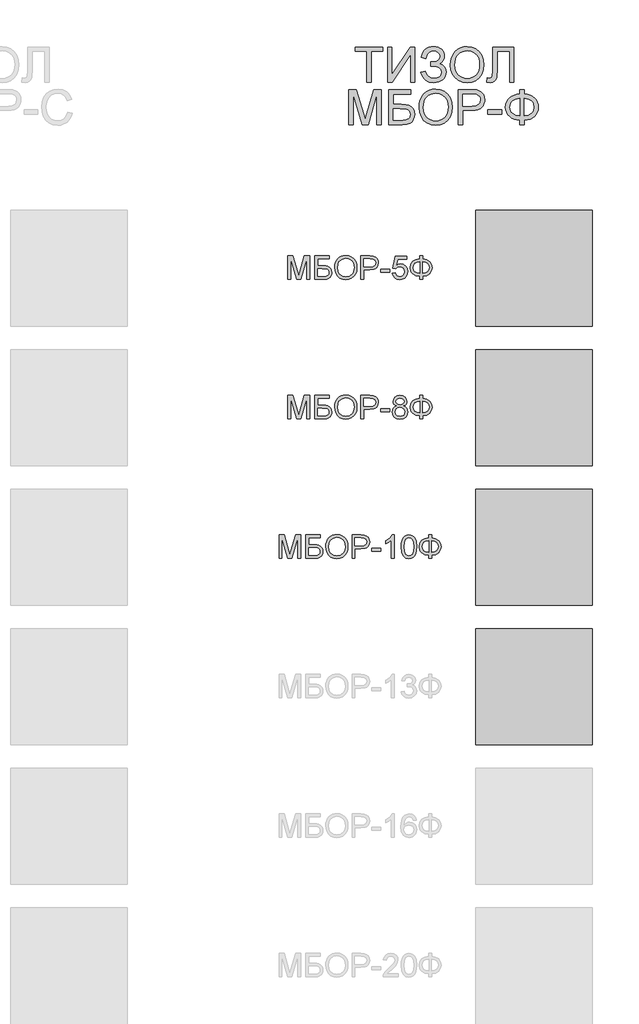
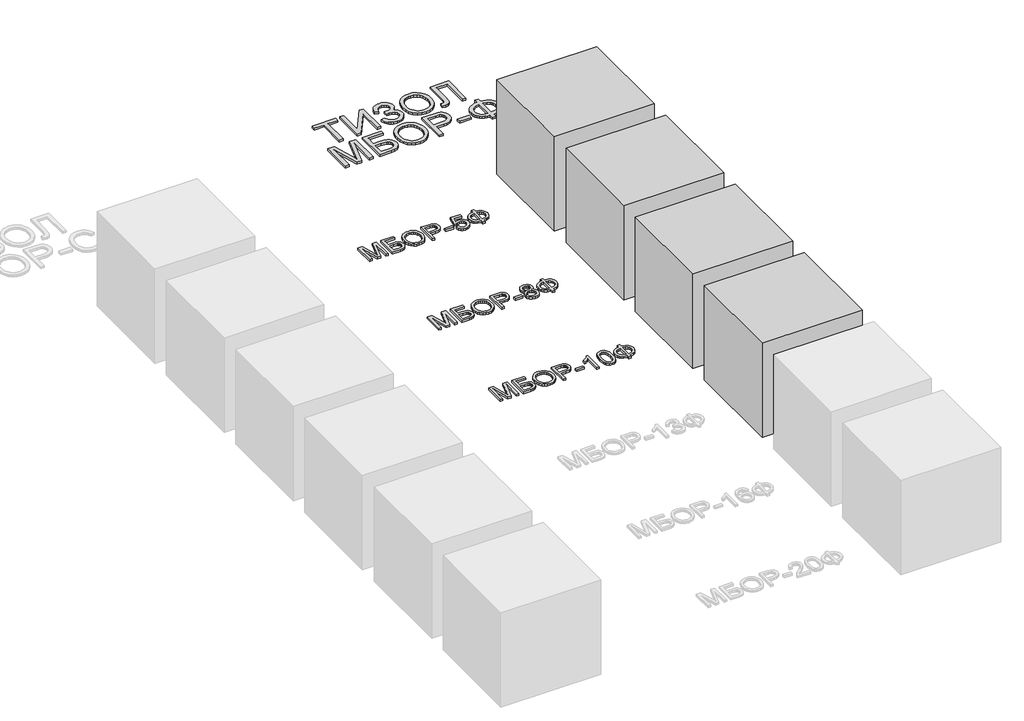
# One storey, part 26 of 35: 8 proxies.
"""IFC4 building model written with IfcOpenShell, lengths in millimetres."""

import ifcopenshell
import ifcopenshell.guid

model = None  # the IFC model being written
_history = None  # IfcOwnerHistory: only IFC2X3 demands one
_inside = {}  # id of a spatial element -> (the spatial element, [elements in it])
_under = {}  # id of a project, library or spatial element -> (it, [spatial elements below it])
_declared = {}  # id of a project -> (the project, [libraries it declares])
_typed = {}  # id of a type object -> (the type object, [elements of that type])
_made_of = {}  # id of a material, layer set ... -> (it, [elements and type objects made of it])


def new_model(schema):
    """Start an empty IFC model of exactly this schema.

    Asked for "IFC4X3", IfcOpenShell would pick the latest addendum, in which some entities
    have other attributes; the version numbers below select the first issue.
    IFC2X3 requires an IfcOwnerHistory on every rooted entity: one is made here for all.
    """
    global model, _history
    if schema == "IFC4X3":
        model = ifcopenshell.file(schema_version=(4, 3, 0, 0))
    else:
        model = ifcopenshell.file(schema=schema)
    _inside.clear()
    _under.clear()
    _declared.clear()
    _typed.clear()
    _made_of.clear()
    _history = None
    if model.schema == "IFC2X3":
        org = make("IfcOrganization", Name="unknown")
        user = make(
            "IfcPersonAndOrganization",
            ThePerson=make("IfcPerson", FamilyName="unknown"),
            TheOrganization=org,
        )
        app = make(
            "IfcApplication",
            ApplicationDeveloper=org,
            Version="unknown",
            ApplicationFullName="unknown",
            ApplicationIdentifier="unknown",
        )
        _history = make(
            "IfcOwnerHistory",
            OwningUser=user,
            OwningApplication=app,
            ChangeAction="ADDED",
            CreationDate=0,
        )
    return model


def make(cls, **values):
    """One entity of the class cls with the attributes given. An attribute that is None is left unset."""
    return model.create_entity(
        cls, **{name: value for name, value in values.items() if value is not None}
    )


def rooted(cls, **values):
    """An entity with a GlobalId (a new one), such as an element, a storey or a relation."""
    return make(cls, GlobalId=ifcopenshell.guid.new(), OwnerHistory=_history, **values)


def si_unit(unit_type, name, prefix=None):
    """IfcSIUnit, for example si_unit("LENGTHUNIT", "METRE", prefix="MILLI")."""
    return make("IfcSIUnit", UnitType=unit_type, Prefix=prefix, Name=name)


def assignment(units):
    """IfcUnitAssignment: the units of a project."""
    return None if units is None else make("IfcUnitAssignment", Units=units)


def point(xyz):
    """IfcCartesianPoint."""
    return None if xyz is None else make("IfcCartesianPoint", Coordinates=xyz)


def direction(xyz):
    """IfcDirection."""
    return None if xyz is None else make("IfcDirection", DirectionRatios=xyz)


def frame(location, z_axis=None, x_axis=None):
    """IfcAxis2Placement3D, a coordinate frame: its origin and axes. An axis left out is left unset."""
    return make(
        "IfcAxis2Placement3D",
        Location=point(location),
        Axis=direction(z_axis),
        RefDirection=direction(x_axis),
    )


def origin():
    """The frame at (0, 0, 0) with its axes left unset."""
    return frame((0.0, 0.0, 0.0))


def origin_with_axes():
    """The frame at (0, 0, 0) with the z axis (0, 0, 1) and the x axis (1, 0, 0) written out."""
    return frame((0.0, 0.0, 0.0), z_axis=(0.0, 0.0, 1.0), x_axis=(1.0, 0.0, 0.0))


def place(relative_to, where):
    """IfcLocalPlacement: puts the frame where relative to a parent placement (None: the world)."""
    return make(
        "IfcLocalPlacement", PlacementRelTo=relative_to, RelativePlacement=where
    )


def context(
    kind, dimensions, precision=None, world=None, true_north=None, identifier=None
):
    """IfcGeometricRepresentationContext, for example the 3D "Model" context."""
    return make(
        "IfcGeometricRepresentationContext",
        ContextIdentifier=identifier,
        ContextType=kind,
        CoordinateSpaceDimension=dimensions,
        Precision=precision,
        WorldCoordinateSystem=world,
        TrueNorth=true_north,
    )


def project(units=None, contexts=None):
    """IfcProject with its units and contexts."""
    return rooted(
        "IfcProject",
        Name="project",
        RepresentationContexts=contexts,
        UnitsInContext=assignment(units),
    )


def spatial(cls, under=None, at=None, **own):
    """A site, building, storey or space (cls), placed at a placement, below another one or the project."""
    s = rooted(cls, ObjectPlacement=at, **own)
    if under is not None:
        _under.setdefault(under.id(), (under, []))[1].append(s)
    return s


def polyline(points):
    """IfcPolyline through the points."""
    return make("IfcPolyline", Points=[point(p) for p in points])


def outline(outer, holes=None, kind="AREA"):
    """IfcArbitraryClosedProfileDef: a profile drawn as a closed curve; with holes, ...WithVoids."""
    if holes is None:
        return make("IfcArbitraryClosedProfileDef", ProfileType=kind, OuterCurve=outer)
    return make(
        "IfcArbitraryProfileDefWithVoids",
        ProfileType=kind,
        OuterCurve=outer,
        InnerCurves=holes,
    )


def extrude(swept, where, along, depth):
    """IfcExtrudedAreaSolid: the profile swept, set in the frame where, extruded along a direction by depth."""
    return make(
        "IfcExtrudedAreaSolid",
        SweptArea=swept,
        Position=where,
        ExtrudedDirection=direction(along),
        Depth=depth,
    )


def shape(context_of_items, identifier, shape_type, items):
    """IfcShapeRepresentation: the items that make up one representation, for example the "Body"."""
    return make(
        "IfcShapeRepresentation",
        ContextOfItems=context_of_items,
        RepresentationIdentifier=identifier,
        RepresentationType=shape_type,
        Items=items,
    )


def source(mapping_origin, context_of_items, identifier, shape_type, items):
    """IfcRepresentationMap: a shape defined once, which mapped items show again and again."""
    return make(
        "IfcRepresentationMap",
        MappingOrigin=mapping_origin,
        MappedRepresentation=shape(context_of_items, identifier, shape_type, items),
    )


def transform(
    local_origin,
    x_axis=None,
    y_axis=None,
    z_axis=None,
    scale=None,
    scale2=None,
    scale3=None,
    uniform=True,
):
    """IfcCartesianTransformationOperator3D, or its non-uniform kind. x_axis, y_axis, z_axis: its Axis1, 2, 3."""
    if uniform:
        return make(
            "IfcCartesianTransformationOperator3D",
            Axis1=direction(x_axis),
            Axis2=direction(y_axis),
            LocalOrigin=point(local_origin),
            Scale=scale,
            Axis3=direction(z_axis),
        )
    return make(
        "IfcCartesianTransformationOperator3DnonUniform",
        Axis1=direction(x_axis),
        Axis2=direction(y_axis),
        LocalOrigin=point(local_origin),
        Scale=scale,
        Axis3=direction(z_axis),
        Scale2=scale2,
        Scale3=scale3,
    )


def mapped(mapping_source, mapping_target):
    """IfcMappedItem: shows the shape of a source again, moved by a transform."""
    return make(
        "IfcMappedItem", MappingSource=mapping_source, MappingTarget=mapping_target
    )


def made_of(thing, what):
    """Note that an element or type object is made of a material, layer set ...; save() writes the relation."""
    if what is not None:
        _made_of.setdefault(what.id(), (what, []))[1].append(thing)
    return thing


def element(
    cls,
    number,
    at=None,
    inside=None,
    cuts=None,
    type_object=None,
    material=None,
    context=None,
    identifier="Body",
    shape_type=None,
    held_by="IfcProductDefinitionShape",
    body=None,
    shapes=None,
    **own,
):
    """One element of the class cls, such as IfcWall. Its Tag is "e" and its number.

    at: its placement. inside: the storey or other place that contains it. cuts: it is an
    opening in that element (IfcRelVoidsElement). A single representation is given by context,
    identifier, shape_type and body (its items); several are given by shapes. held_by: the class
    of the entity that holds the representations. save() writes the other relations.
    """
    e = rooted(cls, Tag="e%d" % number, ObjectPlacement=at, **own)
    if body is not None:
        shapes = [shape(context, identifier, shape_type, body)]
    if shapes is not None:
        e.Representation = make(held_by, Representations=shapes)
    if inside is not None:
        _inside.setdefault(inside.id(), (inside, []))[1].append(e)
    if cuts is not None:
        rooted(
            "IfcRelVoidsElement", RelatingBuildingElement=cuts, RelatedOpeningElement=e
        )
    if type_object is not None:
        _typed.setdefault(type_object.id(), (type_object, []))[1].append(e)
    return made_of(e, material)


def aggregate(whole, parts):
    """IfcRelAggregates: a whole, such as a stair, and the parts it consists of."""
    return rooted("IfcRelAggregates", RelatingObject=whole, RelatedObjects=parts)


def save(model, path):
    """Write the relations noted so far, then the file.

    IfcRelAggregates (storeys below a building ...), IfcRelContainedInSpatialStructure (elements
    in a storey), IfcRelDefinesByType, IfcRelAssociatesMaterial and IfcRelDeclares: one each for
    every whole, place, type object, material and project.
    """
    for whole, parts in _under.values():
        aggregate(whole, parts)
    for where, things in _inside.values():
        rooted(
            "IfcRelContainedInSpatialStructure",
            RelatedElements=things,
            RelatingStructure=where,
        )
    for kind, things in _typed.values():
        rooted("IfcRelDefinesByType", RelatedObjects=things, RelatingType=kind)
    for what, things in _made_of.values():
        rooted("IfcRelAssociatesMaterial", RelatedObjects=things, RelatingMaterial=what)
    for by, libraries in _declared.values():
        rooted("IfcRelDeclares", RelatingContext=by, RelatedDefinitions=libraries)
    model.write(path)


def generic_models_0168a45e(model_context):
    return source(origin(), model_context, "Body", "SweptSolid", [
        extrude(outline(polyline([(-1000.0, 0.0), (0.0, 0.0), (0.0, -1000.0), (-1000.0, -1000.0), (-1000.0, 0.0)])), origin_with_axes(), (0.0, 0.0, 1.0), 1000.0),
    ])


model = new_model("IFC4")

# Units and contexts
model_context = context("Model", 3, world=origin())
ifc_project = project(units=[si_unit("LENGTHUNIT", "METRE", prefix="MILLI")], contexts=[model_context])

# Site, building, storey
site = spatial("IfcSite", under=ifc_project)
building = spatial("IfcBuilding", under=site)
storey = spatial("IfcBuildingStorey", under=building, Name="Этаж 01", Elevation=0.0)

# Proxies
placement = place(None, origin())
element("IfcBuildingElementProxy", 1, Name="600 мм Arial", ObjectType="600 мм Arial", at=placement, inside=storey, context=model_context, shape_type="SweptSolid", body=[
    extrude(outline(polyline([(16712.8246338, -20514.0239469), (16712.8246338, -20250.3261327), (16613.9379535, -20250.3261327), (16613.9379535, -20212.6550164), (16849.3824304, -20212.6550164), (16849.3824304, -20250.3261327), (16750.4957501, -20250.3261327), (16750.4957501, -20514.0239469), (16712.8246338, -20514.0239469)])), origin_with_axes(), (0.0, 0.0, 1.0), 20.0),
    extrude(outline(polyline([(16891.7624363, -20212.6550164), (16929.4335526, -20212.6550164), (16929.4335526, -20451.3368549), (17087.1813521, -20212.6550164), (17127.2069132, -20212.6550164), (17127.2069132, -20514.0239469), (17089.5357969, -20514.0239469), (17089.5357969, -20276.004296), (16932.1558793, -20514.0239469), (16891.7624363, -20514.0239469), (16891.7624363, -20212.6550164)])), origin_with_axes(), (0.0, 0.0, 1.0), 20.0),
    extrude(outline(polyline([(17179.0046981, -20429.2639352), (17216.6758144, -20419.8461561), (17224.6312626, -20440.2360157), (17239.8155919, -20460.6442694), (17261.6769795, -20475.9573574), (17289.6636023, -20481.0617201), (17318.018107, -20477.2265503), (17339.6587654, -20465.7210409), (17353.3715668, -20448.7892721), (17357.9425006, -20428.675324), (17352.9485025, -20407.6048827), (17337.9665082, -20391.3353015), (17314.3760753, -20380.9334381), (17283.5567611, -20377.4661503), (17263.7647098, -20377.4661503), (17263.7647098, -20339.795034), (17306.402233, -20336.7416134), (17320.2989754, -20331.315354), (17332.4850665, -20321.1434168), (17340.9831406, -20307.7433151), (17343.8158319, -20292.6325622), (17340.0450415, -20274.891453), (17328.7326701, -20259.6335472), (17310.9823639, -20249.1213192), (17287.8977687, -20245.6172432), (17267.0296625, -20248.3119788), (17249.4541002, -20256.3961856), (17235.9896192, -20268.9317646), (17227.4547569, -20284.9806167), (17221.384704, -20311.5416967), (17183.7135876, -20302.1239176), (17195.4168336, -20260.9211342), (17204.8311638, -20244.7343264), (17216.6206321, -20231.4905746), (17230.7852386, -20221.1898787), (17247.3249831, -20213.8322388), (17266.2398658, -20209.4176549), (17287.5298867, -20207.9461269), (17308.0416072, -20209.4751364), (17326.313846, -20214.0621651), (17342.3466032, -20221.7072128), (17356.1398788, -20232.4102796), (17367.2292217, -20245.15969), (17375.1501809, -20258.9437685), (17379.9027564, -20273.7625151), (17381.4869483, -20289.6159298), (17379.0221389, -20309.4401708), (17371.6277108, -20326.90077), (17359.3036639, -20341.9977274), (17342.0499984, -20354.731043), (17363.000878, -20364.3787483), (17380.2361495, -20380.6667236), (17391.76925, -20402.1970174), (17395.6136169, -20427.571678), (17393.7696084, -20446.2026018), (17388.2375829, -20463.2470345), (17379.0175404, -20478.7049761), (17366.1094809, -20492.5764266), (17350.1571978, -20504.0198559), (17331.8044848, -20512.1937339), (17311.0513418, -20517.0980608), (17287.8977687, -20518.7328364), (17249.6932235, -20513.1410301), (17233.3362703, -20506.1512722), (17218.80953, -20496.3656111), (17206.1130026, -20483.7840469), (17195.2466882, -20468.4065795), (17179.0046981, -20429.2639352)])), origin_with_axes(), (0.0, 0.0, 1.0), 20.0),
    extrude(outline(polyline([(17433.2847332, -20367.3126072), (17435.7955278, -20331.963746), (17443.3279116, -20300.6707838), (17455.8818847, -20273.4337206), (17473.457447, -20250.2525563), (17495.0015364, -20231.7434934), (17519.4610905, -20218.5227342), (17546.8361095, -20210.5902787), (17577.1265933, -20207.9461269), (17616.6555137, -20212.9125338), (17652.1009439, -20227.8117546), (17681.5315035, -20251.5953256), (17703.015812, -20283.2147831), (17716.1491993, -20321.1434168), (17720.526995, -20363.8545164), (17715.919273, -20407.1358332), (17702.096107, -20445.5978958), (17679.8208522, -20477.2725356), (17649.8568637, -20500.1915839), (17614.7149361, -20514.0975233), (17576.9058641, -20518.7328364), (17536.7699384, -20513.6100796), (17501.1221731, -20498.2418093), (17471.7651899, -20474.0167799), (17450.5016105, -20442.323746), (17437.5889525, -20405.8574432), (17433.2847332, -20367.3126072)]), holes=[polyline([(17470.9558495, -20367.6804892), (17472.8389454, -20392.6550781), (17478.4882333, -20414.8245669), (17487.9037131, -20434.1889554), (17501.0853849, -20450.7482437), (17517.108945, -20464.0103896), (17535.0500901, -20473.483351), (17554.90882, -20479.1671278), (17576.6851349, -20481.0617201), (17598.8339303, -20479.1487337), (17618.927185, -20473.4097746), (17636.9648991, -20463.8448427), (17652.9470725, -20450.4539381), (17666.0321752, -20433.5451619), (17675.3786771, -20413.4266153), (17680.9865783, -20390.0982983), (17682.8558787, -20363.5602108), (17679.6553053, -20330.211708), (17670.0535853, -20301.3881537), (17654.2990388, -20277.8161148), (17632.6399864, -20260.2221584), (17606.5111677, -20249.268472), (17577.3473225, -20245.6172432), (17556.327465, -20247.376179), (17536.8251207, -20252.6529863), (17518.8402897, -20261.4476653), (17502.3729719, -20273.7602158), (17488.6279808, -20290.1838476), (17478.8101301, -20311.3117705), (17472.9194196, -20337.1439843), (17470.9558495, -20367.6804892)])]), origin_with_axes(), (0.0, 0.0, 1.0), 20.0),
    extrude(outline(polyline([(17795.8692276, -20212.6550164), (17979.5159196, -20212.6550164), (17979.5159196, -20514.0239469), (17941.8448033, -20514.0239469), (17941.8448033, -20250.3261327), (17833.5403439, -20250.3261327), (17833.5403439, -20404.1008067), (17829.1625482, -20472.7107988), (17822.3843224, -20492.09818), (17810.8052366, -20506.6295188), (17794.9495226, -20515.707007), (17775.3414123, -20518.7328364), (17744.0714427, -20514.0239469), (17748.7803322, -20476.3528306), (17766.80655, -20481.0617201), (17779.5444641, -20478.5325314), (17788.6219523, -20470.9449652), (17794.0574088, -20453.9764082), (17795.8692276, -20423.3042469), (17795.8692276, -20212.6550164)])), origin_with_axes(), (0.0, 0.0, 1.0), 20.0),
    extrude(outline(polyline([(16559.7857238, -20879.9484004), (16559.7857238, -20578.57947), (16624.6065314, -20578.57947), (16686.2635538, -20790.994534), (16698.6979652, -20835.3611026), (16712.1624462, -20787.315714), (16772.789399, -20578.57947), (16837.6102066, -20578.57947), (16837.6102066, -20879.9484004), (16799.9390903, -20879.9484004), (16799.9390903, -20616.2505863), (16724.2289757, -20879.9484004), (16673.1669547, -20879.9484004), (16597.4568401, -20616.2505863), (16597.4568401, -20879.9484004), (16559.7857238, -20879.9484004)])), origin_with_axes(), (0.0, 0.0, 1.0), 20.0),
    extrude(outline(polyline([(16903.5346601, -20578.57947), (17091.8902416, -20578.57947), (17091.8902416, -20616.2505863), (16941.2057764, -20616.2505863), (16941.2057764, -20705.7194875), (17011.7655431, -20705.7194875), (17046.8430913, -20707.6324739), (17073.9376003, -20713.371433), (17094.7413271, -20724.4262869), (17110.946529, -20742.2869578), (17121.3759836, -20765.2795825), (17124.8524684, -20791.730298), (17122.378462, -20813.9411734), (17114.9564427, -20834.6621268), (17102.6231989, -20852.8079062), (17085.4155185, -20867.2932598), (17058.8728326, -20876.7846152), (17018.5345718, -20879.9484004), (16903.5346601, -20879.9484004), (16903.5346601, -20578.57947)]), holes=[polyline([(16941.2057764, -20842.2772841), (17021.9190862, -20842.2772841), (17050.4483349, -20839.1686812), (17070.8473915, -20829.8428727), (17083.097862, -20814.2998584), (17087.1813521, -20792.5396384), (17084.8453014, -20776.3344365), (17077.8371494, -20763.0355023), (17066.6627338, -20753.1762649), (17051.8278924, -20747.2901529), (16995.0637005, -20743.3906038), (16941.2057764, -20743.3906038), (16941.2057764, -20842.2772841)])]), origin_with_axes(), (0.0, 0.0, 1.0), 20.0),
    extrude(outline(polyline([(17162.5235847, -20733.2370607), (17165.0343793, -20697.8881995), (17172.5667632, -20666.5952373), (17185.1207363, -20639.3581741), (17202.6962986, -20616.1770099), (17224.2403879, -20597.667947), (17248.6999421, -20584.4471878), (17276.0749611, -20576.5147323), (17306.3654448, -20573.8705804), (17345.8943652, -20578.8369874), (17381.3397955, -20593.7362082), (17410.7703551, -20617.5197791), (17432.2546636, -20649.1392366), (17445.3880508, -20687.0678703), (17449.7658466, -20729.77897), (17445.1581246, -20773.0602867), (17431.3349586, -20811.5223493), (17409.0597038, -20843.1969891), (17379.0957153, -20866.1160374), (17343.9537877, -20880.0219768), (17306.1447156, -20884.6572899), (17266.00879, -20879.5345332), (17230.3610246, -20864.1662628), (17201.0040414, -20839.9412334), (17179.7404621, -20808.2481995), (17166.8278041, -20771.7818968), (17162.5235847, -20733.2370607)]), holes=[polyline([(17200.194701, -20733.6049427), (17202.077797, -20758.5795317), (17207.7270849, -20780.7490204), (17217.1425647, -20800.1134089), (17230.3242364, -20816.6726972), (17246.3477966, -20829.9348432), (17264.2889416, -20839.4078045), (17284.1476716, -20845.0915814), (17305.9239864, -20846.9861736), (17328.0727818, -20845.0731873), (17348.1660365, -20839.3342281), (17366.2037506, -20829.7692963), (17382.185924, -20816.3783916), (17395.2710268, -20799.4696154), (17404.6175287, -20779.3510688), (17410.2254299, -20756.0227518), (17412.0947303, -20729.4846644), (17408.8941569, -20696.1361615), (17399.2924368, -20667.3126072), (17383.5378904, -20643.7405684), (17361.8788379, -20626.1466119), (17335.7500192, -20615.1929255), (17306.586174, -20611.5416967), (17285.5663165, -20613.3006325), (17266.0639723, -20618.5774399), (17248.0791412, -20627.3721188), (17231.6118234, -20639.6846694), (17217.8668324, -20656.1083012), (17208.0489816, -20677.236224), (17202.1582712, -20703.0684379), (17200.194701, -20733.6049427)])]), origin_with_axes(), (0.0, 0.0, 1.0), 20.0),
    extrude(outline(polyline([(17501.5636315, -20879.9484004), (17501.5636315, -20578.57947), (17613.2526052, -20578.57947), (17658.2813614, -20581.4489495), (17678.3585213, -20586.8108296), (17694.8856199, -20595.5388299), (17708.1937511, -20608.0284237), (17718.6140086, -20624.675084), (17725.3462491, -20644.3107854), (17727.5903293, -20665.7675028), (17726.0751153, -20684.2673686), (17721.5294734, -20701.2865094), (17713.9534036, -20716.8249252), (17703.3469058, -20730.882616), (17688.7856766, -20742.5352782), (17669.3454124, -20750.8586083), (17645.0261133, -20755.8526064), (17615.8277792, -20757.5172724), (17539.2347478, -20757.5172724), (17539.2347478, -20879.9484004), (17501.5636315, -20879.9484004)]), holes=[polyline([(17539.2347478, -20719.8461561), (17618.0350712, -20719.8461561), (17651.4387563, -20716.3880654), (17673.511676, -20706.0137931), (17685.8173288, -20689.3671328), (17689.919213, -20667.091878), (17687.5003889, -20650.1693062), (17680.2439165, -20635.8954848), (17669.0511068, -20625.1533305), (17654.8232707, -20618.8257602), (17617.1521544, -20616.2505863), (17539.2347478, -20616.2505863), (17539.2347478, -20719.8461561)])]), origin_with_axes(), (0.0, 0.0, 1.0), 20.0),
    extrude(outline(polyline([(17755.8436665, -20790.4794992), (17755.8436665, -20752.8083829), (17873.565905, -20752.8083829), (17873.565905, -20790.4794992), (17755.8436665, -20790.4794992)])), origin_with_axes(), (0.0, 0.0, 1.0), 20.0),
    extrude(outline(polyline([(18028.9592598, -20616.2505863), (18028.9592598, -20578.57947), (18066.6303761, -20578.57947), (18066.6303761, -20616.2505863), (18093.5018566, -20619.5707213), (18117.3888944, -20626.4409175), (18138.2914895, -20636.861175), (18156.2096419, -20650.8314938), (18170.5823316, -20667.5379349), (18180.8485385, -20686.1665594), (18187.0082627, -20706.7173674), (18189.0615041, -20729.1903588), (18187.072642, -20751.2126947), (18181.1060559, -20771.5151823), (18171.1617457, -20790.0978216), (18157.2397115, -20806.9606126), (18139.6434558, -20821.1700546), (18118.6764813, -20831.7926472), (18094.3387881, -20838.8283904), (18066.6303761, -20842.2772841), (18066.6303761, -20879.9484004), (18028.9592598, -20879.9484004), (18028.9592598, -20842.2772841), (18003.7915328, -20839.4698846), (17980.8219007, -20833.1078254), (17960.0503635, -20823.1911063), (17941.4769213, -20809.7197275), (17926.1868259, -20793.2501105), (17915.2653292, -20774.3386766), (17908.7124311, -20752.9854261), (17906.5281318, -20729.1903588), (17908.7055333, -20705.2872261), (17915.237738, -20683.9040852), (17926.1247458, -20665.0409359), (17941.3665567, -20648.6977782), (17959.90551, -20635.3574574), (17980.6839449, -20625.5028184), (18003.7018615, -20619.1338614), (18028.9592598, -20616.2505863)]), holes=[polyline([(18066.6303761, -20653.9217026), (18066.6303761, -20804.6061678), (18101.8734712, -20798.379765), (18128.7288569, -20783.2322239), (18138.6432766, -20772.5061645), (18145.725005, -20759.9360965), (18151.3903878, -20729.2639352), (18145.8261726, -20699.0056411), (18138.8709036, -20686.5114488), (18129.133527, -20675.7738931), (18102.379309, -20660.451608), (18066.6303761, -20653.9217026)]), polyline([(18028.9592598, -20653.9217026), (17994.6818549, -20659.9549673), (17967.6333312, -20674.9645527), (17957.3809198, -20685.6699188), (17950.0577688, -20698.2882712), (17945.6638783, -20712.81961), (17944.1992481, -20729.2639352), (17945.6454842, -20745.5588083), (17949.9841924, -20760.0096729), (17957.2153729, -20772.6165291), (17967.3390256, -20783.3793767), (17994.3139729, -20798.5269178), (18028.9592598, -20804.6061678), (18028.9592598, -20653.9217026)])]), origin_with_axes(), (0.0, 0.0, 1.0), 20.0),
])
element("IfcBuildingElementProxy", 2, Name="400 мм Arial", ObjectType="400 мм Arial", at=placement, inside=storey, context=model_context, shape_type="SweptSolid", body=[
    extrude(outline(polyline([(16035.2341712, -22210.2364996), (16035.2341712, -22009.3238793), (16078.4480429, -22009.3238793), (16119.5527245, -22150.933922), (16127.8423321, -22180.5116344), (16136.8186528, -22148.4813754), (16177.2366213, -22009.3238793), (16220.450493, -22009.3238793), (16220.450493, -22210.2364996), (16195.3364155, -22210.2364996), (16195.3364155, -22034.4379569), (16144.8630057, -22210.2364996), (16110.8216584, -22210.2364996), (16060.3482487, -22034.4379569), (16060.3482487, -22210.2364996), (16035.2341712, -22210.2364996)])), origin_with_axes(), (0.0, 0.0, 1.0), 20.0),
    extrude(outline(polyline([(16264.4001287, -22009.3238793), (16389.9705164, -22009.3238793), (16389.9705164, -22034.4379569), (16289.5142062, -22034.4379569), (16289.5142062, -22094.083891), (16336.5540507, -22094.083891), (16359.9390828, -22095.3592153), (16378.0020888, -22099.185188), (16391.87124, -22106.5550907), (16402.6747079, -22118.4622046), (16409.6276777, -22133.790621), (16411.9453342, -22151.4244313), (16410.2959966, -22166.2316816), (16405.3479838, -22180.0456506), (16397.1258212, -22192.1428368), (16385.6540343, -22201.7997392), (16367.9589103, -22208.1273095), (16341.0667365, -22210.2364996), (16264.4001287, -22210.2364996), (16264.4001287, -22009.3238793)]), holes=[polyline([(16289.5142062, -22185.1224221), (16343.3230794, -22185.1224221), (16362.3425785, -22183.0500202), (16375.9419496, -22176.8328145), (16384.1089299, -22166.4708049), (16386.8312567, -22151.9639916), (16385.2738896, -22141.1605237), (16380.6017882, -22132.2945676), (16373.1521778, -22125.7217426), (16363.2622835, -22121.797668), (16325.419489, -22119.1979686), (16289.5142062, -22119.1979686), (16289.5142062, -22185.1224221)])]), origin_with_axes(), (0.0, 0.0, 1.0), 20.0),
    extrude(outline(polyline([(16437.0594118, -22112.4289398), (16438.7332748, -22088.8630324), (16443.7548641, -22068.0010576), (16452.1241795, -22049.8430154), (16463.841221, -22034.3889059), (16478.2039472, -22022.0495307), (16494.5103167, -22013.2356912), (16512.7603293, -22007.9473875), (16532.9539852, -22006.1846196), (16559.3065988, -22009.4955576), (16582.9368856, -22019.4283715), (16602.5572587, -22035.2840855), (16616.880131, -22056.3637238), (16625.6357225, -22081.6494796), (16628.554253, -22110.123546), (16625.4824383, -22138.9777572), (16616.2669943, -22164.6191322), (16601.4168245, -22185.7355588), (16581.4408321, -22201.0149243), (16558.0128804, -22210.2855506), (16532.8068324, -22213.3757593), (16506.0495486, -22209.9605881), (16482.2843717, -22199.7150746), (16462.7130496, -22183.565055), (16448.53733, -22162.4363657), (16439.9288913, -22138.1254972), (16437.0594118, -22112.4289398)]), holes=[polyline([(16462.1734893, -22112.6741945), (16467.1950785, -22144.1035796), (16482.2598462, -22168.0526975), (16504.902983, -22183.2094357), (16532.6596796, -22188.2616818), (16560.8210463, -22183.1603848), (16583.5009713, -22167.8564938), (16592.2243731, -22156.5839763), (16598.4553744, -22143.1716119), (16603.4401754, -22109.9273423), (16601.3064599, -22087.695007), (16594.9053132, -22068.4793042), (16584.4022822, -22052.7646116), (16569.9629139, -22041.0353073), (16552.5437014, -22033.7328497), (16533.101138, -22031.2986972), (16506.0863368, -22035.9891926), (16483.1182376, -22050.0606789), (16473.9549102, -22061.0097668), (16467.4096764, -22075.0950487), (16462.1734893, -22112.6741945)])]), origin_with_axes(), (0.0, 0.0, 1.0), 20.0),
    extrude(outline(polyline([(16663.0861096, -22210.2364996), (16663.0861096, -22009.3238793), (16737.5454254, -22009.3238793), (16767.5645962, -22011.2368657), (16791.9674352, -22020.6301193), (16800.8395227, -22028.9565151), (16807.786361, -22040.0542887), (16812.2745214, -22053.1447563), (16813.7705748, -22067.4492346), (16809.7300042, -22091.1285723), (16797.6082925, -22110.85931), (16787.9008064, -22118.6277515), (16774.9406302, -22124.1766382), (16739.2622081, -22128.6157476), (16688.2001871, -22128.6157476), (16688.2001871, -22210.2364996), (16663.0861096, -22210.2364996)]), holes=[polyline([(16688.2001871, -22103.5016701), (16740.733736, -22103.5016701), (16763.0028595, -22101.1962763), (16777.7181393, -22094.2800948), (16785.9219078, -22083.1823212), (16788.6564973, -22068.3321514), (16787.0439479, -22057.0504368), (16782.2062996, -22047.5345559), (16774.7444265, -22040.3731197), (16765.2592024, -22036.1547395), (16740.1451249, -22034.4379569), (16688.2001871, -22034.4379569), (16688.2001871, -22103.5016701)])]), origin_with_axes(), (0.0, 0.0, 1.0), 20.0),
    extrude(outline(polyline([(16832.606133, -22150.5905655), (16832.606133, -22125.4764879), (16911.0876253, -22125.4764879), (16911.0876253, -22150.5905655), (16832.606133, -22150.5905655)])), origin_with_axes(), (0.0, 0.0, 1.0), 20.0),
    extrude(outline(polyline([(16933.0624431, -22156.8690849), (16958.1765207, -22153.7298252), (16962.7873083, -22168.8068556), (16970.8316613, -22179.6041922), (16982.2727913, -22186.0973094), (16997.0739103, -22188.2616818), (17015.0756026, -22185.2511808), (17028.5646091, -22176.2196778), (17036.9891068, -22162.2095052), (17039.7972727, -22144.2629952), (17037.1669164, -22127.3649489), (17029.2758476, -22114.4400281), (17016.0627526, -22106.2362596), (16997.4663177, -22103.5016701), (16975.4179235, -22107.8672031), (16961.3157804, -22119.1979686), (16936.2017028, -22116.0587089), (16958.1765207, -22012.463139), (17055.4935711, -22012.463139), (17055.4935711, -22037.5772166), (16978.4836068, -22037.5772166), (16967.7414525, -22092.9066686), (16985.6818312, -22082.0173616), (17004.4806011, -22078.3875926), (17027.945341, -22082.8880156), (17047.4246927, -22096.3892849), (17060.5396858, -22116.9661511), (17064.9113502, -22142.6933653), (17060.9750128, -22167.8074429), (17049.1660008, -22189.2917514), (17038.7304149, -22199.8285049), (17026.5535208, -22207.3547573), (17012.6353187, -22211.8705088), (16996.9758084, -22213.3757593), (16972.3093206, -22209.506867), (16952.6582907, -22197.9001901), (16939.1876783, -22179.9046291), (16933.0624431, -22156.8690849)])), origin_with_axes(), (0.0, 0.0, 1.0), 20.0),
    extrude(outline(polyline([(17168.50692, -22034.4379569), (17168.50692, -22009.3238793), (17193.6209976, -22009.3238793), (17193.6209976, -22034.4379569), (17227.4600098, -22041.2315111), (17253.3405081, -22057.4918952), (17269.7664392, -22081.0486057), (17275.2417496, -22109.7311386), (17269.9381175, -22137.9476876), (17254.0272212, -22161.5779744), (17242.2963841, -22171.0509358), (17228.3184011, -22178.1326642), (17193.6209976, -22185.1224221), (17193.6209976, -22210.2364996), (17168.50692, -22210.2364996), (17168.50692, -22185.1224221), (17136.4153473, -22179.0094496), (17110.1853611, -22163.4173844), (17099.9919641, -22152.4376397), (17092.7109663, -22139.8300171), (17086.886168, -22109.7311386), (17092.6925722, -22079.5402895), (17099.9505774, -22066.9648566), (17110.1117847, -22056.0694182), (17136.3233768, -22040.6061117), (17168.50692, -22034.4379569)]), holes=[polyline([(17168.50692, -22059.5520344), (17145.6553168, -22063.5742109), (17127.6229676, -22073.5806012), (17115.9059261, -22089.1297468), (17112.0002456, -22109.7801895), (17115.8568752, -22130.277348), (17127.4267639, -22145.8571505), (17145.4100621, -22155.9555112), (17168.50692, -22160.0083446), (17168.50692, -22059.5520344)]), polyline([(17193.6209976, -22059.5520344), (17193.6209976, -22160.0083446), (17217.1163943, -22155.8574094), (17235.0199848, -22145.7590486), (17246.3507502, -22130.228297), (17250.127672, -22109.7801895), (17246.4181953, -22089.6079934), (17235.2897649, -22074.1201614), (17217.4536195, -22063.9053047), (17193.6209976, -22059.5520344)])]), origin_with_axes(), (0.0, 0.0, 1.0), 20.0),
])
element("IfcBuildingElementProxy", 3, Name="400 мм Arial", ObjectType="400 мм Arial", at=placement, inside=storey, context=model_context, shape_type="SweptSolid", body=[
    extrude(outline(polyline([(16035.2341712, -23410.2364996), (16035.2341712, -23209.3238793), (16078.4480429, -23209.3238793), (16119.5527245, -23350.933922), (16127.8423321, -23380.5116344), (16136.8186528, -23348.4813754), (16177.2366213, -23209.3238793), (16220.450493, -23209.3238793), (16220.450493, -23410.2364996), (16195.3364155, -23410.2364996), (16195.3364155, -23234.4379569), (16144.8630057, -23410.2364996), (16110.8216584, -23410.2364996), (16060.3482487, -23234.4379569), (16060.3482487, -23410.2364996), (16035.2341712, -23410.2364996)])), origin_with_axes(), (0.0, 0.0, 1.0), 20.0),
    extrude(outline(polyline([(16264.4001287, -23209.3238793), (16389.9705164, -23209.3238793), (16389.9705164, -23234.4379569), (16289.5142062, -23234.4379569), (16289.5142062, -23294.083891), (16336.5540507, -23294.083891), (16359.9390828, -23295.3592153), (16378.0020888, -23299.185188), (16391.87124, -23306.5550907), (16402.6747079, -23318.4622046), (16409.6276777, -23333.790621), (16411.9453342, -23351.4244313), (16410.2959966, -23366.2316816), (16405.3479838, -23380.0456506), (16397.1258212, -23392.1428368), (16385.6540343, -23401.7997392), (16367.9589103, -23408.1273095), (16341.0667365, -23410.2364996), (16264.4001287, -23410.2364996), (16264.4001287, -23209.3238793)]), holes=[polyline([(16289.5142062, -23385.1224221), (16343.3230794, -23385.1224221), (16362.3425785, -23383.0500202), (16375.9419496, -23376.8328145), (16384.1089299, -23366.4708049), (16386.8312567, -23351.9639916), (16385.2738896, -23341.1605237), (16380.6017882, -23332.2945676), (16373.1521778, -23325.7217426), (16363.2622835, -23321.797668), (16325.419489, -23319.1979686), (16289.5142062, -23319.1979686), (16289.5142062, -23385.1224221)])]), origin_with_axes(), (0.0, 0.0, 1.0), 20.0),
    extrude(outline(polyline([(16437.0594118, -23312.4289398), (16438.7332748, -23288.8630324), (16443.7548641, -23268.0010576), (16452.1241795, -23249.8430154), (16463.841221, -23234.3889059), (16478.2039472, -23222.0495307), (16494.5103167, -23213.2356912), (16512.7603293, -23207.9473875), (16532.9539852, -23206.1846196), (16559.3065988, -23209.4955576), (16582.9368856, -23219.4283715), (16602.5572587, -23235.2840855), (16616.880131, -23256.3637238), (16625.6357225, -23281.6494796), (16628.554253, -23310.123546), (16625.4824383, -23338.9777572), (16616.2669943, -23364.6191322), (16601.4168245, -23385.7355588), (16581.4408321, -23401.0149243), (16558.0128804, -23410.2855506), (16532.8068324, -23413.3757593), (16506.0495486, -23409.9605881), (16482.2843717, -23399.7150746), (16462.7130496, -23383.565055), (16448.53733, -23362.4363657), (16439.9288913, -23338.1254972), (16437.0594118, -23312.4289398)]), holes=[polyline([(16462.1734893, -23312.6741945), (16467.1950785, -23344.1035796), (16482.2598462, -23368.0526975), (16504.902983, -23383.2094357), (16532.6596796, -23388.2616818), (16560.8210463, -23383.1603848), (16583.5009713, -23367.8564938), (16592.2243731, -23356.5839763), (16598.4553744, -23343.1716119), (16603.4401754, -23309.9273423), (16601.3064599, -23287.695007), (16594.9053132, -23268.4793042), (16584.4022822, -23252.7646116), (16569.9629139, -23241.0353073), (16552.5437014, -23233.7328497), (16533.101138, -23231.2986972), (16506.0863368, -23235.9891926), (16483.1182376, -23250.0606789), (16473.9549102, -23261.0097668), (16467.4096764, -23275.0950487), (16462.1734893, -23312.6741945)])]), origin_with_axes(), (0.0, 0.0, 1.0), 20.0),
    extrude(outline(polyline([(16663.0861096, -23410.2364996), (16663.0861096, -23209.3238793), (16737.5454254, -23209.3238793), (16767.5645962, -23211.2368657), (16791.9674352, -23220.6301193), (16800.8395227, -23228.9565151), (16807.786361, -23240.0542887), (16812.2745214, -23253.1447563), (16813.7705748, -23267.4492346), (16809.7300042, -23291.1285723), (16797.6082925, -23310.85931), (16787.9008064, -23318.6277515), (16774.9406302, -23324.1766382), (16739.2622081, -23328.6157476), (16688.2001871, -23328.6157476), (16688.2001871, -23410.2364996), (16663.0861096, -23410.2364996)]), holes=[polyline([(16688.2001871, -23303.5016701), (16740.733736, -23303.5016701), (16763.0028595, -23301.1962763), (16777.7181393, -23294.2800948), (16785.9219078, -23283.1823212), (16788.6564973, -23268.3321514), (16787.0439479, -23257.0504368), (16782.2062996, -23247.5345559), (16774.7444265, -23240.3731197), (16765.2592024, -23236.1547395), (16740.1451249, -23234.4379569), (16688.2001871, -23234.4379569), (16688.2001871, -23303.5016701)])]), origin_with_axes(), (0.0, 0.0, 1.0), 20.0),
    extrude(outline(polyline([(16832.606133, -23350.5905655), (16832.606133, -23325.4764879), (16911.0876253, -23325.4764879), (16911.0876253, -23350.5905655), (16832.606133, -23350.5905655)])), origin_with_axes(), (0.0, 0.0, 1.0), 20.0),
    extrude(outline(polyline([(16969.6544389, -23299.5775955), (16956.208352, -23292.9557196), (16946.7721788, -23283.9793989), (16941.1987666, -23272.8325744), (16939.3409625, -23259.6991872), (16943.3876645, -23240.0665514), (16955.5277703, -23223.8429554), (16974.4001167, -23212.9536484), (16998.6435401, -23209.3238793), (17023.0341164, -23213.0394875), (17042.1517174, -23224.1863119), (17054.5125525, -23240.6674253), (17058.6328308, -23260.3859003), (17056.7995522, -23273.0962232), (17051.2997164, -23284.0529753), (17042.0720097, -23292.9741137), (17029.0551184, -23299.5775955), (17044.5122936, -23307.5422407), (17055.7633513, -23319.271545), (17062.6243505, -23334.2014226), (17064.9113502, -23351.7677879), (17060.3741389, -23375.7782194), (17046.7625051, -23395.6193217), (17025.7441804, -23408.9366499), (16998.9868967, -23413.3757593), (16972.2296129, -23408.9182558), (16951.2112882, -23395.5457453), (16937.5996544, -23375.5145707), (16933.0624431, -23351.0810748), (16935.4414134, -23332.8341278), (16942.5783241, -23317.8245424), (16954.1052933, -23306.5673534), (16969.6544389, -23299.5775955)]), holes=[polyline([(16958.1765207, -23350.198158), (16962.3703754, -23369.1072926), (16968.1767796, -23377.2190906), (16977.2082825, -23383.2584867), (16999.1831004, -23388.2616818), (17016.2773504, -23385.6313255), (17029.1041693, -23377.7402567), (17037.1239968, -23365.7902233), (17039.7972727, -23350.9829729), (17037.0381577, -23335.9243366), (17028.7608128, -23323.7106544), (17015.6396883, -23315.6172505), (16998.3492345, -23312.9194492), (16981.4941078, -23315.5804623), (16968.7960476, -23323.5635016), (16960.8314024, -23335.5441919), (16958.1765207, -23350.198158)]), polyline([(16964.45504, -23260.4349512), (16966.6807261, -23271.3978347), (16973.3577843, -23280.1534261), (16984.290011, -23285.8923853), (16999.2812023, -23287.8053716), (17013.9229057, -23285.904648), (17024.6895854, -23280.2024771), (17031.3114613, -23271.7411912), (17033.5187533, -23261.5631227), (17031.2378849, -23250.998778), (17024.3952798, -23242.2615806), (17013.4814473, -23236.3938628), (16998.9868967, -23234.4379569), (16984.4003756, -23236.3509432), (16973.5049371, -23242.0899024), (16966.7175143, -23250.5021373), (16964.45504, -23260.4349512)])]), origin_with_axes(), (0.0, 0.0, 1.0), 20.0),
    extrude(outline(polyline([(17168.50692, -23234.4379569), (17168.50692, -23209.3238793), (17193.6209976, -23209.3238793), (17193.6209976, -23234.4379569), (17227.4600098, -23241.2315111), (17253.3405081, -23257.4918952), (17269.7664392, -23281.0486057), (17275.2417496, -23309.7311386), (17269.9381175, -23337.9476876), (17254.0272212, -23361.5779744), (17242.2963841, -23371.0509358), (17228.3184011, -23378.1326642), (17193.6209976, -23385.1224221), (17193.6209976, -23410.2364996), (17168.50692, -23410.2364996), (17168.50692, -23385.1224221), (17136.4153473, -23379.0094496), (17110.1853611, -23363.4173844), (17099.9919641, -23352.4376397), (17092.7109663, -23339.8300171), (17086.886168, -23309.7311386), (17092.6925722, -23279.5402895), (17099.9505774, -23266.9648566), (17110.1117847, -23256.0694182), (17136.3233768, -23240.6061117), (17168.50692, -23234.4379569)]), holes=[polyline([(17193.6209976, -23259.5520344), (17193.6209976, -23360.0083446), (17217.1163943, -23355.8574094), (17235.0199848, -23345.7590486), (17246.3507502, -23330.228297), (17250.127672, -23309.7801895), (17246.4181953, -23289.6079934), (17235.2897649, -23274.1201614), (17217.4536195, -23263.9053047), (17193.6209976, -23259.5520344)]), polyline([(17168.50692, -23259.5520344), (17145.6553168, -23263.5742109), (17127.6229676, -23273.5806012), (17115.9059261, -23289.1297468), (17112.0002456, -23309.7801895), (17115.8568752, -23330.277348), (17127.4267639, -23345.8571505), (17145.4100621, -23355.9555112), (17168.50692, -23360.0083446), (17168.50692, -23259.5520344)])]), origin_with_axes(), (0.0, 0.0, 1.0), 20.0),
])
element("IfcBuildingElementProxy", 4, Name="400 мм Arial", ObjectType="400 мм Arial", at=placement, inside=storey, context=model_context, shape_type="SweptSolid", body=[
    extrude(outline(polyline([(15958.3223087, -24610.2364996), (15958.3223087, -24409.3238793), (16001.5361804, -24409.3238793), (16042.640862, -24550.933922), (16050.9304696, -24580.5116344), (16059.9067903, -24548.4813754), (16100.3247588, -24409.3238793), (16143.5386305, -24409.3238793), (16143.5386305, -24610.2364996), (16118.424553, -24610.2364996), (16118.424553, -24434.4379569), (16067.9511433, -24610.2364996), (16033.909796, -24610.2364996), (15983.4363862, -24434.4379569), (15983.4363862, -24610.2364996), (15958.3223087, -24610.2364996)])), origin_with_axes(), (0.0, 0.0, 1.0), 20.0),
    extrude(outline(polyline([(16187.4882662, -24409.3238793), (16313.0586539, -24409.3238793), (16313.0586539, -24434.4379569), (16212.6023438, -24434.4379569), (16212.6023438, -24494.083891), (16259.6421882, -24494.083891), (16283.0272204, -24495.3592153), (16301.0902263, -24499.185188), (16314.9593776, -24506.5550907), (16325.7628455, -24518.4622046), (16332.7158152, -24533.790621), (16335.0334718, -24551.4244313), (16333.3841342, -24566.2316816), (16328.4361213, -24580.0456506), (16320.2139587, -24592.1428368), (16308.7421718, -24601.7997392), (16291.0470479, -24608.1273095), (16264.154874, -24610.2364996), (16187.4882662, -24610.2364996), (16187.4882662, -24409.3238793)]), holes=[polyline([(16212.6023438, -24585.1224221), (16266.4112169, -24585.1224221), (16285.4307161, -24583.0500202), (16299.0300872, -24576.8328145), (16307.1970675, -24566.4708049), (16309.9193942, -24551.9639916), (16308.3620271, -24541.1605237), (16303.6899258, -24532.2945676), (16296.2403154, -24525.7217426), (16286.3504211, -24521.797668), (16248.5076265, -24519.1979686), (16212.6023438, -24519.1979686), (16212.6023438, -24585.1224221)])]), origin_with_axes(), (0.0, 0.0, 1.0), 20.0),
    extrude(outline(polyline([(16360.1475493, -24512.4289398), (16361.8214124, -24488.8630324), (16366.8430016, -24468.0010576), (16375.212317, -24449.8430154), (16386.9293586, -24434.3889059), (16401.2920848, -24422.0495307), (16417.5984542, -24413.2356912), (16435.8484669, -24407.9473875), (16456.0421227, -24406.1846196), (16482.3947363, -24409.4955576), (16506.0250231, -24419.4283715), (16525.6453962, -24435.2840855), (16539.9682685, -24456.3637238), (16548.72386, -24481.6494796), (16551.6423905, -24510.123546), (16548.5705759, -24538.9777572), (16539.3551319, -24564.6191322), (16524.504962, -24585.7355588), (16504.5289697, -24601.0149243), (16481.101018, -24610.2855506), (16455.8949699, -24613.3757593), (16429.1376861, -24609.9605881), (16405.3725092, -24599.7150746), (16385.8011871, -24583.565055), (16371.6254676, -24562.4363657), (16363.0170289, -24538.1254972), (16360.1475493, -24512.4289398)]), holes=[polyline([(16385.2616268, -24512.6741945), (16390.2832161, -24544.1035796), (16405.3479838, -24568.0526975), (16427.9911206, -24583.2094357), (16455.7478171, -24588.2616818), (16483.9091838, -24583.1603848), (16506.5891089, -24567.8564938), (16515.3125107, -24556.5839763), (16521.543512, -24543.1716119), (16526.528313, -24509.9273423), (16524.3945974, -24487.695007), (16517.9934507, -24468.4793042), (16507.4904197, -24452.7646116), (16493.0510514, -24441.0353073), (16475.631839, -24433.7328497), (16456.1892755, -24431.2986972), (16429.1744743, -24435.9891926), (16406.2063751, -24450.0606789), (16397.0430477, -24461.0097668), (16390.4978139, -24475.0950487), (16385.2616268, -24512.6741945)])]), origin_with_axes(), (0.0, 0.0, 1.0), 20.0),
    extrude(outline(polyline([(16586.1742471, -24610.2364996), (16586.1742471, -24409.3238793), (16660.633563, -24409.3238793), (16690.6527338, -24411.2368657), (16715.0555728, -24420.6301193), (16723.9276602, -24428.9565151), (16730.8744986, -24440.0542887), (16735.3626589, -24453.1447563), (16736.8587124, -24467.4492346), (16732.8181418, -24491.1285723), (16720.69643, -24510.85931), (16710.9889439, -24518.6277515), (16698.0287678, -24524.1766382), (16662.3503456, -24528.6157476), (16611.2883247, -24528.6157476), (16611.2883247, -24610.2364996), (16586.1742471, -24610.2364996)]), holes=[polyline([(16611.2883247, -24503.5016701), (16663.8218736, -24503.5016701), (16686.090997, -24501.1962763), (16700.8062768, -24494.2800948), (16709.0100453, -24483.1823212), (16711.7446348, -24468.3321514), (16710.1320854, -24457.0504368), (16705.2944372, -24447.5345559), (16697.832564, -24440.3731197), (16688.3473399, -24436.1547395), (16663.2332624, -24434.4379569), (16611.2883247, -24434.4379569), (16611.2883247, -24503.5016701)])]), origin_with_axes(), (0.0, 0.0, 1.0), 20.0),
    extrude(outline(polyline([(16755.6942705, -24550.5905655), (16755.6942705, -24525.4764879), (16834.1757628, -24525.4764879), (16834.1757628, -24550.5905655), (16755.6942705, -24550.5905655)])), origin_with_axes(), (0.0, 0.0, 1.0), 20.0),
    extrude(outline(polyline([(16950.3283714, -24610.2364996), (16925.2142939, -24610.2364996), (16925.2142939, -24453.6659225), (16901.4245915, -24470.6130197), (16874.9861388, -24483.2926858), (16874.9861388, -24459.5520344), (16911.7988638, -24436.0566377), (16925.2694762, -24422.481792), (16934.1415636, -24409.3238793), (16950.3283714, -24409.3238793), (16950.3283714, -24610.2364996)])), origin_with_axes(), (0.0, 0.0, 1.0), 20.0),
    extrude(outline(polyline([(17009.9743056, -24511.3988703), (17011.8198469, -24479.2398525), (17017.356471, -24453.5923461), (17026.5289954, -24434.0639435), (17039.2822379, -24420.2622373), (17055.708169, -24412.0584688), (17075.8987591, -24409.3238793), (17091.3743284, -24410.9425601), (17105.2312169, -24415.7986025), (17116.8194997, -24423.701934), (17125.4892521, -24434.4624823), (17137.2614759, -24464.1873475), (17141.8232127, -24511.3988703), (17139.9960654, -24543.373947), (17134.5146237, -24568.9601398), (17125.3972816, -24588.5069365), (17112.6624332, -24602.3638249), (17096.1997139, -24610.6227757), (17075.8987591, -24613.3757593), (17049.8036629, -24608.5932934), (17029.9870861, -24594.2458956), (17021.2314946, -24579.1167485), (17014.9775007, -24560.265862), (17009.9743056, -24511.3988703)]), holes=[polyline([(17035.0883831, -24511.3498193), (17038.0314391, -24550.8542142), (17046.860607, -24573.7180802), (17060.0062569, -24584.6257814), (17075.8987591, -24588.2616818), (17091.7912613, -24584.6135187), (17104.9369113, -24573.6690293), (17113.7660792, -24550.7929006), (17116.7091351, -24511.3498193), (17113.864181, -24472.7344726), (17105.3293187, -24449.6927969), (17092.2081942, -24438.2516669), (17075.6044535, -24434.4379569), (17059.8836296, -24437.7979458), (17047.2530144, -24447.8779124), (17038.1295409, -24472.3543278), (17035.0883831, -24511.3498193)])]), origin_with_axes(), (0.0, 0.0, 1.0), 20.0),
    extrude(outline(polyline([(17245.4187825, -24434.4379569), (17245.4187825, -24409.3238793), (17270.53286, -24409.3238793), (17270.53286, -24434.4379569), (17304.3718722, -24441.2315111), (17330.2523706, -24457.4918952), (17346.6783017, -24481.0486057), (17352.153612, -24509.7311386), (17346.8499799, -24537.9476876), (17330.9390836, -24561.5779744), (17319.2082465, -24571.0509358), (17305.2302635, -24578.1326642), (17270.53286, -24585.1224221), (17270.53286, -24610.2364996), (17245.4187825, -24610.2364996), (17245.4187825, -24585.1224221), (17213.3272098, -24579.0094496), (17187.0972235, -24563.4173844), (17176.9038266, -24552.4376397), (17169.6228288, -24539.8300171), (17163.7980305, -24509.7311386), (17169.6044347, -24479.5402895), (17176.8624399, -24466.9648566), (17187.0236471, -24456.0694182), (17213.2352393, -24440.6061117), (17245.4187825, -24434.4379569)]), holes=[polyline([(17245.4187825, -24459.5520344), (17222.5671792, -24463.5742109), (17204.5348301, -24473.5806012), (17192.8177886, -24489.1297468), (17188.912108, -24509.7801895), (17192.7687376, -24530.277348), (17204.3386264, -24545.8571505), (17222.3219246, -24555.9555112), (17245.4187825, -24560.0083446), (17245.4187825, -24459.5520344)]), polyline([(17270.53286, -24459.5520344), (17270.53286, -24560.0083446), (17294.0282568, -24555.8574094), (17311.9318472, -24545.7590486), (17323.2626127, -24530.228297), (17327.0395345, -24509.7801895), (17323.3300577, -24489.6079934), (17312.2016274, -24474.1201614), (17294.365482, -24463.9053047), (17270.53286, -24459.5520344)])]), origin_with_axes(), (0.0, 0.0, 1.0), 20.0),
])
generic_models_shape = generic_models_0168a45e(model_context)
element("IfcBuildingElementProxy", 5, Name="Куб(материал) : 1000х1000", ObjectType="Куб(материал) : 1000х1000", at=placement, inside=storey, context=model_context, shape_type="MappedRepresentation", body=[
    mapped(generic_models_shape, transform((18651.5160466, -21616.2975606, 0.0), x_axis=(1.0, 0.0, 0.0), y_axis=(0.0, 1.0, 0.0), z_axis=(0.0, 0.0, 1.0))),
])
element("IfcBuildingElementProxy", 6, Name="Куб(материал) : 1000х1000", ObjectType="Куб(материал) : 1000х1000", at=placement, inside=storey, context=model_context, shape_type="MappedRepresentation", body=[
    mapped(generic_models_shape, transform((18651.5160466, -22816.2975606, 0.0), x_axis=(1.0, 0.0, 0.0), y_axis=(0.0, 1.0, 0.0), z_axis=(0.0, 0.0, 1.0))),
])
element("IfcBuildingElementProxy", 7, Name="Куб(материал) : 1000х1000", ObjectType="Куб(материал) : 1000х1000", at=placement, inside=storey, context=model_context, shape_type="MappedRepresentation", body=[
    mapped(generic_models_shape, transform((18651.5160466, -24016.2975606, 0.0), x_axis=(1.0, 0.0, 0.0), y_axis=(0.0, 1.0, 0.0), z_axis=(0.0, 0.0, 1.0))),
])
element("IfcBuildingElementProxy", 8, Name="Куб(материал) : 1000х1000", ObjectType="Куб(материал) : 1000х1000", at=placement, inside=storey, context=model_context, shape_type="MappedRepresentation", body=[
    mapped(generic_models_shape, transform((18651.5160466, -25216.2975606, 0.0), x_axis=(1.0, 0.0, 0.0), y_axis=(0.0, 1.0, 0.0), z_axis=(0.0, 0.0, 1.0))),
])

save(model, "model.ifc")
